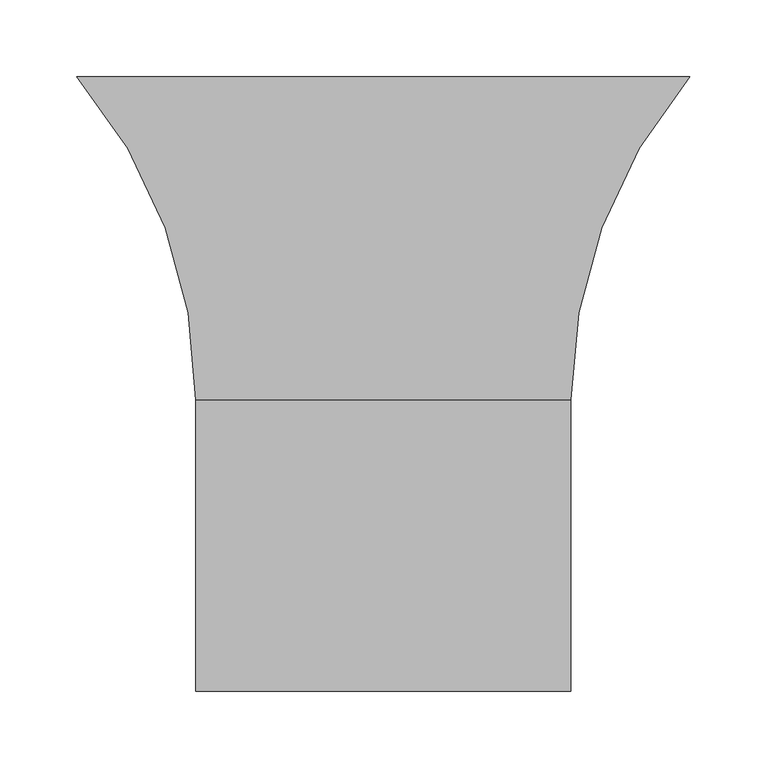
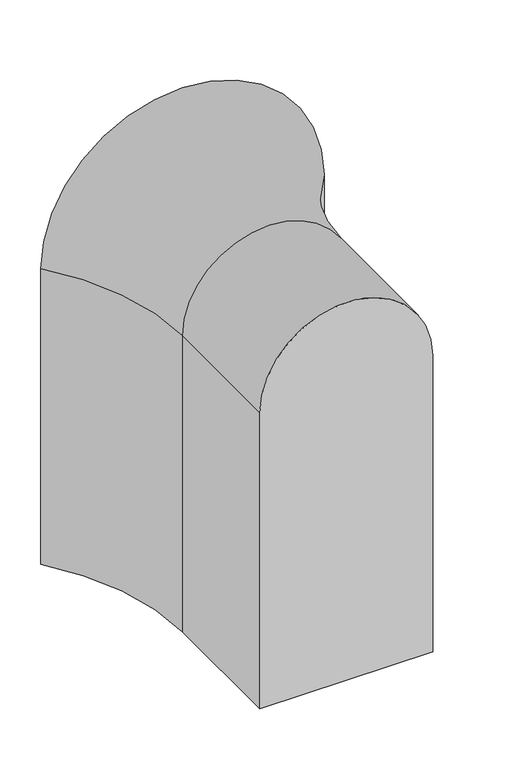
"""IFC4 building model written with IfcOpenShell, lengths in millimetres: flow terminal geometry, DECA_BACIA SANITARIA WISH_P.280_CAIXA ACOPLADA : Bacia Sanitária - Caixa Acoplada Inferior."""

from ifc_helpers import new_model, si_unit, point, frame, origin, place, context, project, spatial, polyline, circle_curve, ellipse_curve, trimmed, source, transform, mapped, element, save
from ifc_brep_helpers import plane_surface, cylinder_surface, revolved_surface, advanced_brep


def flow_terminal_a2c34cfb(model_context):
    return source(origin(), model_context, "Body", "AdvancedBrep", [
        advanced_brep(
        [(199.2418937, 400.0, 10.0), (-200.0076116, 400.0, 10.0), (-200.0076116, 400.0, 450.96476), (199.2418937, 400.0, 450.96476), (-122.4999955, 0.0, 10.0), (121.7342775, 0.0, 10.0), (121.7342775, 0.0, 450.96476), (-122.4999955, 0.0, 450.96476), (-122.4999955, 189.5834351, 10.0), (121.7342775, 189.5834351, 10.0), (-122.4999955, 189.5834351, 450.96476), (121.7342775, 189.5834351, 450.96476)],
        [
            (0, 1),
            (1, 2),
            (2, 3, circle_curve(frame((-0.382859, 400.0, 450.96476), z_axis=(0.0, 1.0, 0.0), x_axis=(-1.0, 0.0, 0.0)), 199.6247526)),
            (3, 0),
            (4, 5),
            (5, 6),
            (6, 7, circle_curve(frame((-0.382859, 0.0, 450.96476), z_axis=(0.0, -1.0, 0.0), x_axis=(-1.0, 0.0, 0.0)), 122.1171365)),
            (7, 4),
            (4, 8),
            (8, 1, circle_curve(frame((-446.8717403, 189.5834351, 10.0), z_axis=(0.0, 0.0, 1.0), x_axis=(0.7687837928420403, 0.6395087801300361, 0.0)), 324.3717448)),
            (0, 9, circle_curve(frame((446.1060223, 189.5834351, 10.0), z_axis=(0.0, 0.0, 1.0), x_axis=(-0.7687837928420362, 0.6395087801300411, 0.0)), 324.3717448)),
            (9, 5),
            (10, 2, circle_curve(frame((-446.8717403, 189.5834351, 450.96476), z_axis=(0.0, 0.0, 1.0), x_axis=(0.7687837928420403, 0.6395087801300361, 0.0)), 324.3717448)),
            (8, 10),
            (7, 10),
            (10, 11, circle_curve(frame((-0.382859, 189.5834351, 450.96476), z_axis=(0.0, 1.0, 0.0), x_axis=(-1.0, 0.0, 0.0)), 122.1171365)),
            (11, 3, circle_curve(frame((446.1060223, 189.5834351, 450.96476), z_axis=(0.0, 0.0, -1.0), x_axis=(-0.7687837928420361, 0.639508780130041, 0.0)), 324.3717448)),
            (6, 11),
            (11, 9),
        ],
        [
            plane_surface(frame((-0.3828581, 400.0, 232.0448804), z_axis=(0.0, 1.0, 0.0), x_axis=(-1.0, 0.0, 0.0))),
            plane_surface(frame((5.2e-06, 0.0, 229.507364), z_axis=(0.0, -1.0, 0.0), x_axis=(-1.0, 0.0, 0.0))),
            plane_surface(frame((3.5e-06, 0.0, 10.0), z_axis=(0.0, 0.0, -1.0), x_axis=(-1.0, 0.0, 0.0))),
            revolved_surface(polyline([(-197.50000004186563, 397.0220139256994, 10.0), (-197.50000004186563, 397.0220139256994, 450.96476)]), (-446.8717403, 189.5834351, 0.96476), (0.0, 0.0, -1.0)),
            plane_surface(frame((-122.4999955, 189.5834351, 0.96476), z_axis=(-1.0, 0.0, 0.0), x_axis=(0.0, 0.0, 1.0))),
            revolved_surface(trimmed(ellipse_curve(frame((-446.8717403, 189.5834351, 450.96476), z_axis=(0.0, 0.0, 1.0), x_axis=(0.7687837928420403, 0.6395087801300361, 0.0)), 324.3717448, 324.3717448), [point((-122.4999955, 189.5834351, 450.96476))], [point((-202.705754, 403.125, 450.96476))], True, "CARTESIAN"), (-0.382859, 400.625, 450.96476), (0.0, 1.0, 0.0)),
            cylinder_surface(frame((-0.382859, 400.625, 450.96476), z_axis=(0.0, 1.0, 0.0), x_axis=(-1.0, 0.0, 0.0)), 122.1171365),
            revolved_surface(polyline([(196.73428204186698, 397.022013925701, 450.96476), (196.73428204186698, 397.022013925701, 9.999999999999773)]), (446.1060223, 189.5834351, 450.96476), (0.0, 0.0, 1.0000000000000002)),
            plane_surface(frame((121.7342775, 189.5834351, 450.96476), z_axis=(1.0, 0.0, 0.0), x_axis=(0.0, 0.0, -1.0))),
        ],
        [
            (0, [[1, 2, 3, 4]]),
            (1, [[5, 6, 7, 8]]),
            (2, [[-5, 9, 10, -1, 11, 12]]),
            (3, [[13, -2, -10, 14]]),
            (4, [[15, -14, -9, -8]]),
            (5, [[16, 17, -3, -13]]),
            (6, [[-16, -15, -7, 18]]),
            (7, [[-17, 19, -11, -4]]),
            (8, [[-18, -6, -12, -19]]),
        ],
    ),
    ])


if __name__ == "__main__":
    model = new_model("IFC4")
    model_context = context("Model", 3, world=origin())
    ifc_project = project(units=[si_unit("LENGTHUNIT", "METRE", prefix="MILLI")], contexts=[model_context])
    site = spatial("IfcSite", under=ifc_project)
    building = spatial("IfcBuilding", under=site)
    placement = place(None, origin())
    flow_terminal_shape = flow_terminal_a2c34cfb(model_context)
    element("IfcFlowTerminal", 1, ObjectType="DECA_BACIA SANITARIA WISH_P.280_CAIXA ACOPLADA : Bacia Sanitária - Caixa Acoplada Inferior", at=placement, inside=building, context=model_context, shape_type="MappedRepresentation", body=[
        mapped(flow_terminal_shape, transform((0.0, 0.0, 0.0), x_axis=(1.0, 0.0, 0.0), y_axis=(0.0, 1.0, 0.0), z_axis=(0.0, 0.0, 1.0))),
    ])
    save(model, "model.ifc")
